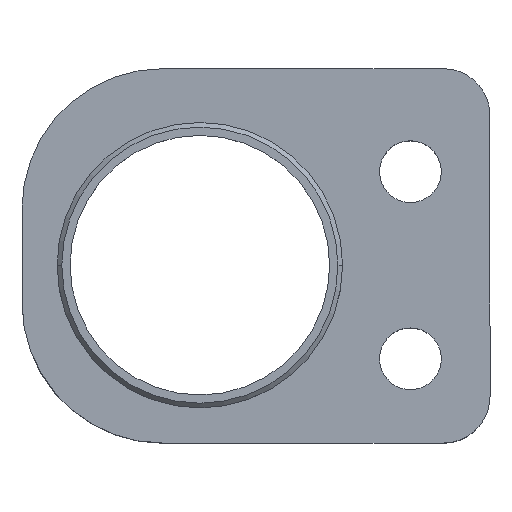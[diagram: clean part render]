
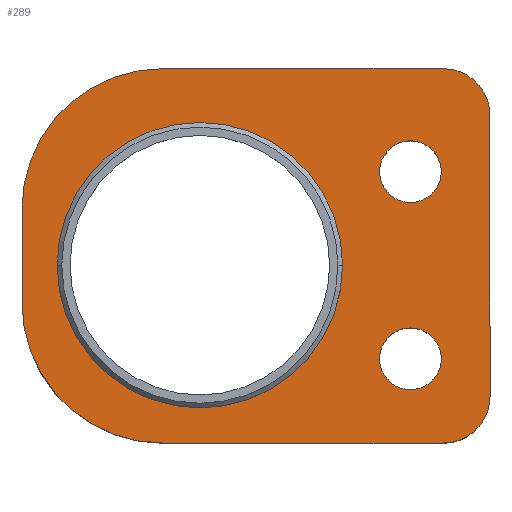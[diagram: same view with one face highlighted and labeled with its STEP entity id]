
A CAD part, top view. The second image highlights one B-rep face of the part: STEP entity #289.
In plain terms, the highlighted planar face has unit normal (0, 0, 1).
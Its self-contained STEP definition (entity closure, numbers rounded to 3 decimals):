
#178 = VERTEX_POINT ( 'NONE', #787 ) ;
#186 = VERTEX_POINT ( 'NONE', #782 ) ;
#279 = ORIENTED_EDGE ( 'NONE', *, *, #280, .T. ) ;
#280 = EDGE_CURVE ( 'NONE', #178, #186, #938, .T. ) ;
#281 = EDGE_CURVE ( 'NONE', #345, #346, #952, .T. ) ;
#282 = ORIENTED_EDGE ( 'NONE', *, *, #1381, .T. ) ;
#283 = ORIENTED_EDGE ( 'NONE', *, *, #285, .T. ) ;
#284 = ORIENTED_EDGE ( 'NONE', *, *, #1369, .T. ) ;
#285 = EDGE_CURVE ( 'NONE', #1451, #1378, #939, .T. ) ;
#289 = ADVANCED_FACE ( 'NONE', ( #985, #992, #942, #933 ), #981, .F. ) ;
#290 = EDGE_LOOP ( 'NONE', ( #283, #282 ) ) ;
#291 = EDGE_LOOP ( 'NONE', ( #348, #344, #339, #343, #338, #335, #326, #330 ) ) ;
#292 = EDGE_CURVE ( 'NONE', #347, #342, #984, .T. ) ;
#321 = EDGE_CURVE ( 'NONE', #329, #323, #1042, .T. ) ;
#323 = VERTEX_POINT ( 'NONE', #1046 ) ;
#324 = ORIENTED_EDGE ( 'NONE', *, *, #1467, .F. ) ;
#325 = ORIENTED_EDGE ( 'NONE', *, *, #333, .F. ) ;
#326 = ORIENTED_EDGE ( 'NONE', *, *, #321, .T. ) ;
#327 = EDGE_CURVE ( 'NONE', #334, #329, #1047, .T. ) ;
#328 = EDGE_LOOP ( 'NONE', ( #325, #324 ) ) ;
#329 = VERTEX_POINT ( 'NONE', #1039 ) ;
#330 = ORIENTED_EDGE ( 'NONE', *, *, #331, .T. ) ;
#331 = EDGE_CURVE ( 'NONE', #323, #345, #1038, .T. ) ;
#333 = EDGE_CURVE ( 'NONE', #1468, #1463, #1029, .T. ) ;
#334 = VERTEX_POINT ( 'NONE', #1037 ) ;
#335 = ORIENTED_EDGE ( 'NONE', *, *, #327, .T. ) ;
#336 = EDGE_CURVE ( 'NONE', #342, #334, #1024, .T. ) ;
#337 = VERTEX_POINT ( 'NONE', #1076 ) ;
#338 = ORIENTED_EDGE ( 'NONE', *, *, #336, .T. ) ;
#339 = ORIENTED_EDGE ( 'NONE', *, *, #341, .T. ) ;
#340 = EDGE_CURVE ( 'NONE', #346, #337, #1069, .T. ) ;
#341 = EDGE_CURVE ( 'NONE', #337, #347, #1035, .T. ) ;
#342 = VERTEX_POINT ( 'NONE', #1071 ) ;
#343 = ORIENTED_EDGE ( 'NONE', *, *, #292, .T. ) ;
#344 = ORIENTED_EDGE ( 'NONE', *, *, #340, .T. ) ;
#345 = VERTEX_POINT ( 'NONE', #1061 ) ;
#346 = VERTEX_POINT ( 'NONE', #1059 ) ;
#347 = VERTEX_POINT ( 'NONE', #1070 ) ;
#348 = ORIENTED_EDGE ( 'NONE', *, *, #281, .T. ) ;
#349 = EDGE_LOOP ( 'NONE', ( #279, #284 ) ) ;
#782 = CARTESIAN_POINT ( 'NONE',  ( 44.8, 9., 8.25 ) ) ;
#787 = CARTESIAN_POINT ( 'NONE',  ( 38.2, 9., 8.25 ) ) ;
#926 = DIRECTION ( 'NONE',  ( -1., 0., 0. ) ) ;
#927 = DIRECTION ( 'NONE',  ( 0., 0., -1. ) ) ;
#928 = AXIS2_PLACEMENT_3D ( 'NONE', #991, #980, #979 ) ;
#929 = DIRECTION ( 'NONE',  ( 0., -1., 0. ) ) ;
#930 = VECTOR ( 'NONE', #929, 1000. ) ;
#931 = CARTESIAN_POINT ( 'NONE',  ( 0., 0., 8.25 ) ) ;
#932 = CARTESIAN_POINT ( 'NONE',  ( 41.5, 29., 8.25 ) ) ;
#933 = FACE_BOUND ( 'NONE', #328, .T. ) ;
#934 = DIRECTION ( 'NONE',  ( -1., 0., 0. ) ) ;
#935 = DIRECTION ( 'NONE',  ( 0., 0., -1. ) ) ;
#936 = CARTESIAN_POINT ( 'NONE',  ( 41.5, 9., 8.25 ) ) ;
#937 = AXIS2_PLACEMENT_3D ( 'NONE', #936, #935, #934 ) ;
#938 = CIRCLE ( 'NONE', #937, 3.3 ) ;
#939 = CIRCLE ( 'NONE', #941, 3.3 ) ;
#941 = AXIS2_PLACEMENT_3D ( 'NONE', #932, #927, #926 ) ;
#942 = FACE_OUTER_BOUND ( 'NONE', #291, .T. ) ;
#952 = LINE ( 'NONE', #931, #930 ) ;
#972 = DIRECTION ( 'NONE',  ( -1., 0., 0. ) ) ;
#973 = DIRECTION ( 'NONE',  ( 0., 0., 1. ) ) ;
#974 = CARTESIAN_POINT ( 'NONE',  ( 45., 5., 8.25 ) ) ;
#975 = AXIS2_PLACEMENT_3D ( 'NONE', #974, #973, #972 ) ;
#979 = DIRECTION ( 'NONE',  ( -1., 0., 0. ) ) ;
#980 = DIRECTION ( 'NONE',  ( 0., 0., -1. ) ) ;
#981 = PLANE ( 'NONE',  #928 ) ;
#984 = CIRCLE ( 'NONE', #975, 5. ) ;
#985 = FACE_BOUND ( 'NONE', #290, .T. ) ;
#991 = CARTESIAN_POINT ( 'NONE',  ( 0., 40., 8.25 ) ) ;
#992 = FACE_BOUND ( 'NONE', #349, .T. ) ;
#1015 = CARTESIAN_POINT ( 'NONE',  ( 0., 40., 8.25 ) ) ;
#1023 = CARTESIAN_POINT ( 'NONE',  ( 50., 0., 8.25 ) ) ;
#1024 = LINE ( 'NONE', #1023, #1075 ) ;
#1025 = DIRECTION ( 'NONE',  ( -1., 0., 0. ) ) ;
#1026 = DIRECTION ( 'NONE',  ( 0., 0., 1. ) ) ;
#1027 = CARTESIAN_POINT ( 'NONE',  ( 15., 25., 8.25 ) ) ;
#1028 = AXIS2_PLACEMENT_3D ( 'NONE', #1027, #1026, #1025 ) ;
#1029 = CIRCLE ( 'NONE', #1082, 15.25 ) ;
#1030 = DIRECTION ( 'NONE',  ( -1., 0., 0. ) ) ;
#1031 = DIRECTION ( 'NONE',  ( 0., 0., 1. ) ) ;
#1032 = CARTESIAN_POINT ( 'NONE',  ( 45., 35., 8.25 ) ) ;
#1033 = AXIS2_PLACEMENT_3D ( 'NONE', #1032, #1031, #1030 ) ;
#1035 = LINE ( 'NONE', #1077, #1064 ) ;
#1036 = CARTESIAN_POINT ( 'NONE',  ( 19., 19., 8.25 ) ) ;
#1037 = CARTESIAN_POINT ( 'NONE',  ( 50., 35., 8.25 ) ) ;
#1038 = CIRCLE ( 'NONE', #1028, 15. ) ;
#1039 = CARTESIAN_POINT ( 'NONE',  ( 45., 40., 8.25 ) ) ;
#1040 = DIRECTION ( 'NONE',  ( -1., 0., 0. ) ) ;
#1041 = VECTOR ( 'NONE', #1040, 1000. ) ;
#1042 = LINE ( 'NONE', #1015, #1041 ) ;
#1046 = CARTESIAN_POINT ( 'NONE',  ( 15., 40., 8.25 ) ) ;
#1047 = CIRCLE ( 'NONE', #1033, 5. ) ;
#1059 = CARTESIAN_POINT ( 'NONE',  ( 0., 15., 8.25 ) ) ;
#1061 = CARTESIAN_POINT ( 'NONE',  ( 0., 25., 8.25 ) ) ;
#1063 = DIRECTION ( 'NONE',  ( 1., 0., 0. ) ) ;
#1064 = VECTOR ( 'NONE', #1063, 1000. ) ;
#1065 = DIRECTION ( 'NONE',  ( -1., 0., 0. ) ) ;
#1066 = DIRECTION ( 'NONE',  ( 0., 0., 1. ) ) ;
#1067 = CARTESIAN_POINT ( 'NONE',  ( 15., 15., 8.25 ) ) ;
#1068 = AXIS2_PLACEMENT_3D ( 'NONE', #1067, #1066, #1065 ) ;
#1069 = CIRCLE ( 'NONE', #1068, 15. ) ;
#1070 = CARTESIAN_POINT ( 'NONE',  ( 45., 0., 8.25 ) ) ;
#1071 = CARTESIAN_POINT ( 'NONE',  ( 50., 5., 8.25 ) ) ;
#1074 = DIRECTION ( 'NONE',  ( 0., 1., 0. ) ) ;
#1075 = VECTOR ( 'NONE', #1074, 1000. ) ;
#1076 = CARTESIAN_POINT ( 'NONE',  ( 15., 0., 8.25 ) ) ;
#1077 = CARTESIAN_POINT ( 'NONE',  ( 0., 0., 8.25 ) ) ;
#1080 = DIRECTION ( 'NONE',  ( -1., 0., 0. ) ) ;
#1081 = DIRECTION ( 'NONE',  ( 0., 0., 1. ) ) ;
#1082 = AXIS2_PLACEMENT_3D ( 'NONE', #1036, #1081, #1080 ) ;
#1085 = DIRECTION ( 'NONE',  ( -1., 0., 0. ) ) ;
#1086 = DIRECTION ( 'NONE',  ( 0., 0., -1. ) ) ;
#1087 = CARTESIAN_POINT ( 'NONE',  ( 41.5, 9., 8.25 ) ) ;
#1088 = AXIS2_PLACEMENT_3D ( 'NONE', #1087, #1086, #1085 ) ;
#1098 = CIRCLE ( 'NONE', #1088, 3.3 ) ;
#1120 = DIRECTION ( 'NONE',  ( -1., 0., 0. ) ) ;
#1121 = DIRECTION ( 'NONE',  ( 0., 0., -1. ) ) ;
#1122 = CARTESIAN_POINT ( 'NONE',  ( 41.5, 29., 8.25 ) ) ;
#1123 = AXIS2_PLACEMENT_3D ( 'NONE', #1122, #1121, #1120 ) ;
#1132 = CARTESIAN_POINT ( 'NONE',  ( 44.8, 29., 8.25 ) ) ;
#1133 = CIRCLE ( 'NONE', #1123, 3.3 ) ;
#1233 = CARTESIAN_POINT ( 'NONE',  ( 3.75, 19., 8.25 ) ) ;
#1252 = CARTESIAN_POINT ( 'NONE',  ( 38.2, 29., 8.25 ) ) ;
#1253 = CIRCLE ( 'NONE', #1276, 15.25 ) ;
#1274 = DIRECTION ( 'NONE',  ( -1., 0., 0. ) ) ;
#1275 = DIRECTION ( 'NONE',  ( 0., 0., 1. ) ) ;
#1276 = AXIS2_PLACEMENT_3D ( 'NONE', #1278, #1275, #1274 ) ;
#1278 = CARTESIAN_POINT ( 'NONE',  ( 19., 19., 8.25 ) ) ;
#1281 = CARTESIAN_POINT ( 'NONE',  ( 34.25, 19., 8.25 ) ) ;
#1369 = EDGE_CURVE ( 'NONE', #186, #178, #1098, .T. ) ;
#1378 = VERTEX_POINT ( 'NONE', #1132 ) ;
#1381 = EDGE_CURVE ( 'NONE', #1378, #1451, #1133, .T. ) ;
#1451 = VERTEX_POINT ( 'NONE', #1252 ) ;
#1463 = VERTEX_POINT ( 'NONE', #1281 ) ;
#1467 = EDGE_CURVE ( 'NONE', #1463, #1468, #1253, .T. ) ;
#1468 = VERTEX_POINT ( 'NONE', #1233 ) ;
